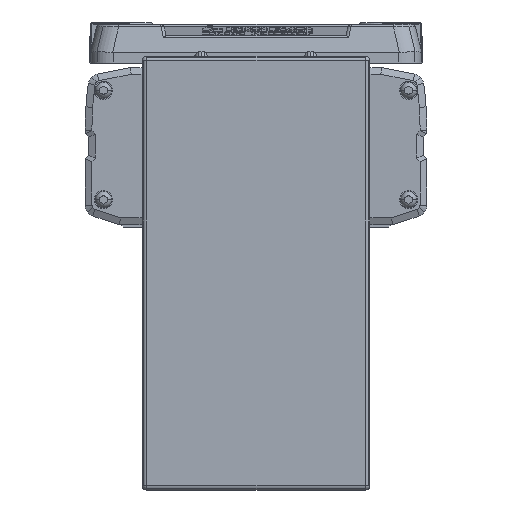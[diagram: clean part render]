
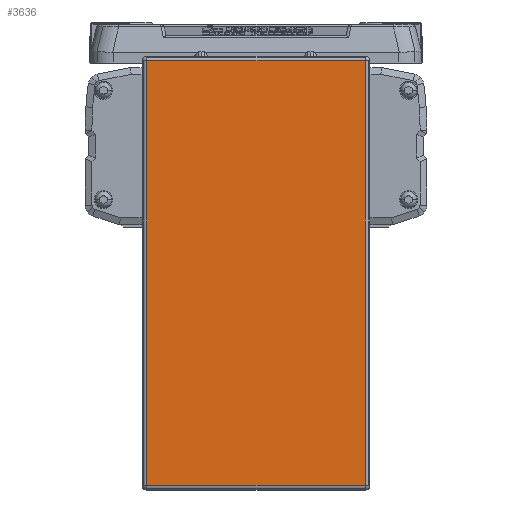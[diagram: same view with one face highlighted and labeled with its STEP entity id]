
A CAD part, left-side view. The second image highlights one B-rep face of the part: STEP entity #3636.
In plain terms, the highlighted planar face has unit normal (-1, 0, 0).
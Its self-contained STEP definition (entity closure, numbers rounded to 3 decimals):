
#3636=ADVANCED_FACE('',(#8497),#8498,.T.);
#8497=FACE_OUTER_BOUND('',#14953,.T.);
#8498=PLANE('',#14954);
#14953=EDGE_LOOP('',(#26208,#26209,#26210,#26211));
#14954=AXIS2_PLACEMENT_3D('',#26212,#26213,#26214);
#26208=ORIENTED_EDGE('',*,*,#40084,.F.);
#26209=ORIENTED_EDGE('',*,*,#40113,.F.);
#26210=ORIENTED_EDGE('',*,*,#40678,.F.);
#26211=ORIENTED_EDGE('',*,*,#40840,.F.);
#26212=CARTESIAN_POINT('',(-45.,0.,-64.2));
#26213=DIRECTION('',(-1.0,0.,0.));
#26214=DIRECTION('',(0.,1.0,0.));
#40084=EDGE_CURVE('',#48093,#48095,#48096,.T.);
#40113=EDGE_CURVE('',#48086,#48093,#48138,.T.);
#40678=EDGE_CURVE('',#48923,#48086,#48964,.T.);
#40840=EDGE_CURVE('',#48095,#48923,#49199,.T.);
#48086=VERTEX_POINT('',#59375);
#48093=VERTEX_POINT('',#59383);
#48095=VERTEX_POINT('',#59385);
#48096=LINE('',#59386,#59387);
#48138=LINE('',#59469,#59470);
#48923=VERTEX_POINT('',#60733);
#48964=LINE('',#60784,#60785);
#49199=LINE('',#61116,#61117);
#59375=CARTESIAN_POINT('',(-45.,48.,-157.4));
#59383=CARTESIAN_POINT('',(-45.,48.,29.));
#59385=CARTESIAN_POINT('',(-45.,-48.,29.));
#59386=CARTESIAN_POINT('',(-45.,0.,29.));
#59387=VECTOR('',#72353,10.0);
#59469=CARTESIAN_POINT('',(-45.,48.,-64.2));
#59470=VECTOR('',#72388,10.0);
#60733=CARTESIAN_POINT('',(-45.,-48.,-157.4));
#60784=CARTESIAN_POINT('',(-45.,0.,-157.4));
#60785=VECTOR('',#73071,10.0);
#61116=CARTESIAN_POINT('',(-45.,-48.,-64.2));
#61117=VECTOR('',#73270,10.0);
#72353=DIRECTION('',(0.0,-1.0,0.));
#72388=DIRECTION('',(0.,0.,1.0));
#73071=DIRECTION('',(0.0,1.0,0.));
#73270=DIRECTION('',(0.,0.,-1.0));
